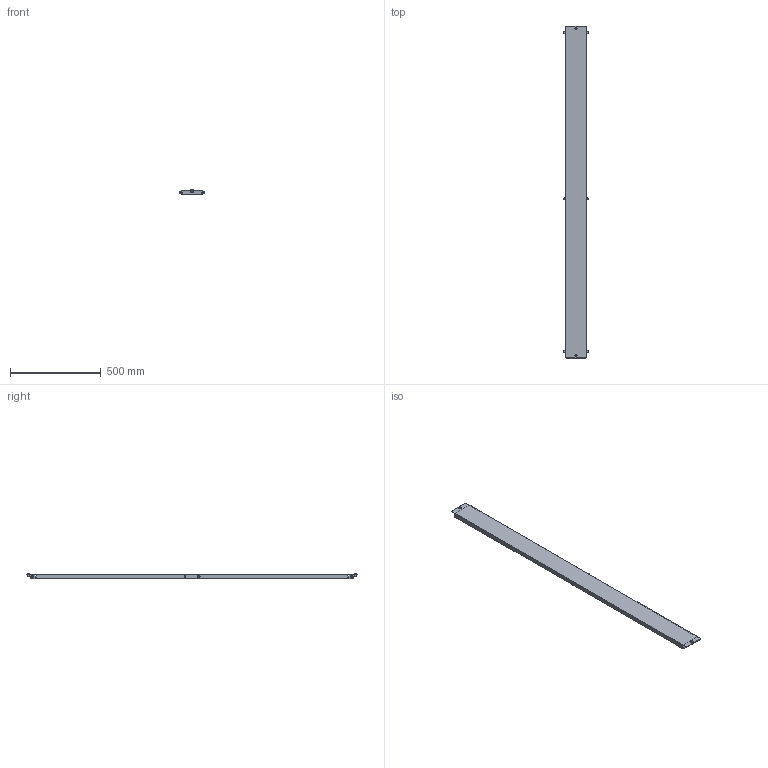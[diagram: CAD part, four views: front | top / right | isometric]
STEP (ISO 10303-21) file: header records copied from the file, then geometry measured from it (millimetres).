
FILE_DESCRIPTION(('Open CASCADE Model'),'2;1');
FILE_NAME('Open CASCADE Shape Model','2025-02-13T17:15:42',('Author'),( 'Open CASCADE'),'Open CASCADE STEP processor 7.8','Open CASCADE 7.8' ,'Unknown');
FILE_SCHEMA(('AUTOMOTIVE_DESIGN { 1 0 10303 214 1 1 1 1 }'));
Length unit declared in the file: millimetre
Products named in the file (7): Compound1; Solid1; Solid2; Solid3; Solid4; Solid5; Solid6
Assembly tree (19 placements, depth 2):
  Compound1
    Solid1
    Solid2  x2
    Solid3  x6
    Solid4  x2
    Solid5  x6
    Solid6  x2
Bounding box: 132 x 1825 x 28.9 mm (x, y, z)
Volume: 738230.2 mm3; surface area: 606436.4 mm2
Topology: 19 solids, 19 shells, 1008 faces, 2765 edges, 1793 vertices
Faces by surface type: plane 550, cylinder 312, cone 80, bspline 48, torus 16, sphere 2
Full cylindrical faces by diameter (mm): 4.917 x6, 5 x2, 6 x10, 6.6 x6, 7 x4, 8 x6, 11 x2
Entity records: 8694 total; most frequent: CARTESIAN_POINT 2254, ORIENTED_EDGE 1378, DIRECTION 1236, EDGE_CURVE 689, VERTEX_POINT 448, AXIS2_PLACEMENT_3D 424, LINE 388, VECTOR 388
